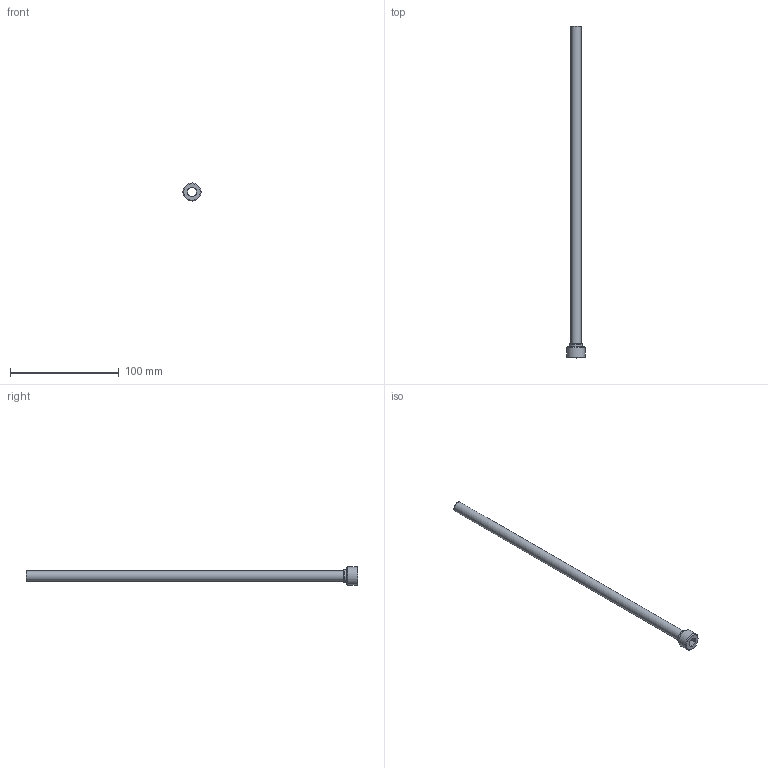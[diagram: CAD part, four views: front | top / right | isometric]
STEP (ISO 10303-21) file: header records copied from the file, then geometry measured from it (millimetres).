
FILE_DESCRIPTION(/* description */ (''),/* implementation_level */ '2;1');
FILE_NAME(/* name */ 'C:/Users/drich/Desktop/PT38-375-12 v1.step',/* time_stamp */ '2019-12-27T15:55:33-06:00',/* author */ (''),/* organization */ (''),/* preprocessor_version */ 'ST-DEVELOPER v18',/* originating_system */ 'Autodesk Translation Framework v8.12.0.6',/* authorisation */ '');
FILE_SCHEMA (('AUTOMOTIVE_DESIGN { 1 0 10303 214 3 1 1 }'));
Length unit declared in the file: inch
Products named in the file (1): PT38-375-12
Bounding box: 16.54 x 304.8 x 16.54 mm (x, y, z)
Volume: 5334.2 mm3; surface area: 17880.7 mm2
Topology: 1 solids, 1 shells, 30 faces, 71 edges, 45 vertices
Faces by surface type: plane 22, cylinder 4, torus 2, cone 2
Full cylindrical faces by diameter (mm): 8.636 x1, 9.5 x1, 11.938 x1, 16.537 x1
Entity records: 913 total; most frequent: DIRECTION 168, CARTESIAN_POINT 147, ORIENTED_EDGE 142, EDGE_CURVE 71, AXIS2_PLACEMENT_3D 66, VERTEX_POINT 45, LINE 36, VECTOR 36
